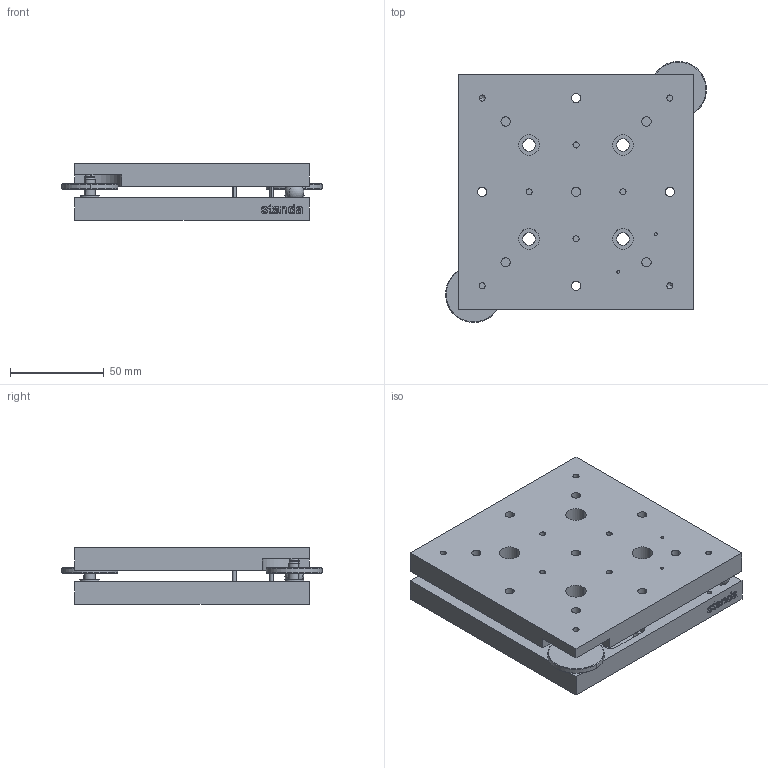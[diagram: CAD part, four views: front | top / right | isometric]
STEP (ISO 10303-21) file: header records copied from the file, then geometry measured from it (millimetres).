
FILE_DESCRIPTION((''),'2;1');
FILE_NAME('6TP-125.stp','2016-09-07T08:35:44',(''),(''),'Mechanical Desktop 2011','Mechanical Desktop 2011',', , ');
FILE_SCHEMA(('CONFIG_CONTROL_DESIGN'));
Length unit declared in the file: millimetre
Products named in the file (1): Product
Bounding box: 138.94 x 138.94 x 30.14 mm (x, y, z)
Volume: 358679.5 mm3; surface area: 85570.5 mm2
Topology: 1 solids, 1 shells, 481 faces, 1230 edges, 748 vertices
Faces by surface type: bspline 245, plane 126, cylinder 54, cone 36, sphere 16, torus 4
Entity records: 17402 total; most frequent: CARTESIAN_POINT 6574, ORIENTED_EDGE 2372, DIRECTION 1984, EDGE_CURVE 1186, VERTEX_POINT 748, AXIS2_PLACEMENT_3D 719, EDGE_LOOP 604, VECTOR 546
